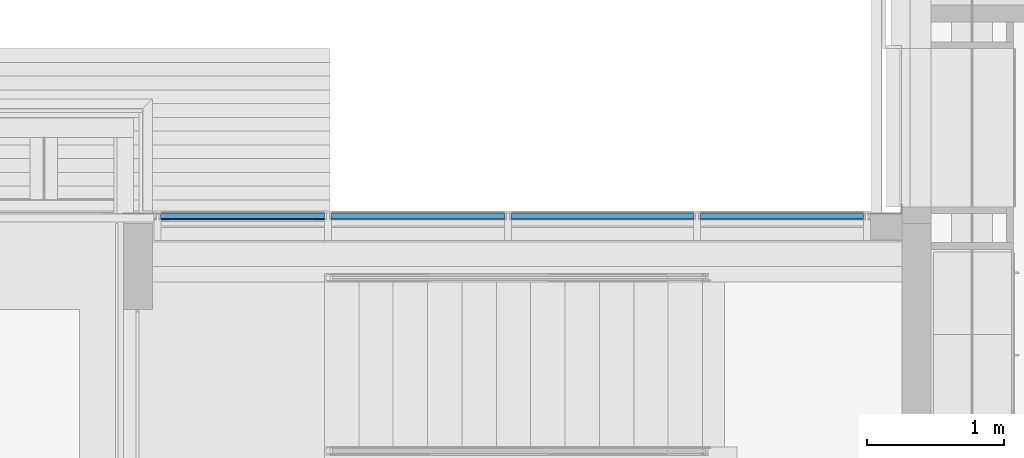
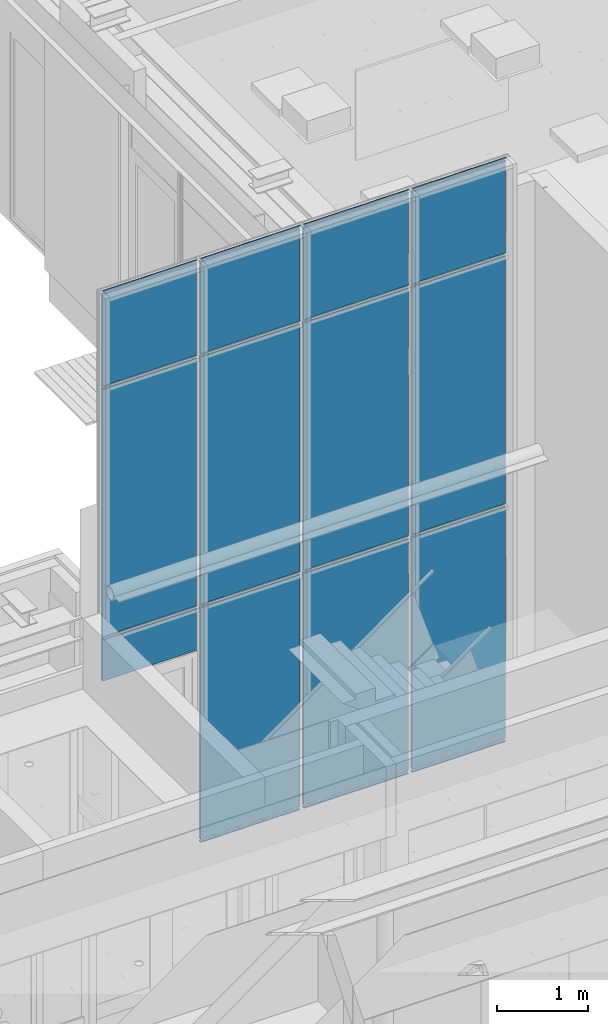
# One storey, part 103 of 347: 10 building element parts, 1 opening, 1 element without a shape of its own.
"""IFC2X3 building model written with IfcOpenShell, lengths in millimetres."""

from ifc_helpers import new_model, entity, si_unit, converted_unit, derived_unit, money_unit, direction, frame, origin_with_axes, place, context, subcontext, project, spatial, faceted_brep, material, type_object, element, aggregate, save


model = new_model("IFC2X3")

# Units and contexts
model_context = context("Model", 3, precision=0.01, world=origin_with_axes(), true_north=direction((0.0, 1.0)))
plan_context = context("Plan", 3, precision=0.01, world=origin_with_axes(), true_north=direction((0.0, 1.0)))
body_context = subcontext(model_context, "Body", "Model", "MODEL_VIEW")
ifc_project = project(units=[si_unit("LENGTHUNIT", "METRE", prefix="MILLI"), si_unit("AREAUNIT", "SQUARE_METRE"), si_unit("VOLUMEUNIT", "CUBIC_METRE"), converted_unit("PLANEANGLEUNIT", "DEGREE", entity("IfcPlaneAngleMeasure", 0.0174532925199), si_unit("PLANEANGLEUNIT", "RADIAN"), dimensions=[0, 0, 0, 0, 0, 0, 0]), money_unit("EUR"), converted_unit("TIMEUNIT", "Year", entity("IfcTimeMeasure", 31556926.0), si_unit("TIMEUNIT", "SECOND"), dimensions=[0, 0, 1, 0, 0, 0, 0]), si_unit("MASSUNIT", "GRAM", prefix="KILO"), si_unit("THERMODYNAMICTEMPERATUREUNIT", "DEGREE_CELSIUS"), si_unit("LUMINOUSINTENSITYUNIT", "LUMEN"), si_unit("ENERGYUNIT", "JOULE", prefix="MEGA"), derived_unit("THERMALCONDUCTANCEUNIT", [(si_unit("POWERUNIT", "WATT"), 1), (si_unit("LENGTHUNIT", "METRE"), -1), (si_unit("THERMODYNAMICTEMPERATUREUNIT", "KELVIN"), -1)]), derived_unit("SPECIFICHEATCAPACITYUNIT", [(si_unit("ENERGYUNIT", "JOULE"), 1), (si_unit("MASSUNIT", "GRAM", prefix="KILO"), -1), (si_unit("THERMODYNAMICTEMPERATUREUNIT", "KELVIN"), -1)]), derived_unit("MASSDENSITYUNIT", [(si_unit("MASSUNIT", "GRAM", prefix="KILO"), 1), (si_unit("VOLUMEUNIT", "CUBIC_METRE"), -1)])], contexts=[model_context, plan_context])

# Site, building, storey
site_placement = place(None, origin_with_axes())
site = spatial("IfcSite", under=ifc_project, at=site_placement, Name="Site", CompositionType="ELEMENT")
building_placement = place(site_placement, origin_with_axes())
building = spatial("IfcBuilding", under=site, at=building_placement, Name="Naam gebouw", CompositionType="ELEMENT")
storey_placement = place(building_placement, origin_with_axes())
storey = spatial("IfcBuildingStorey", under=building, at=storey_placement, Name="begane grond", CompositionType="ELEMENT", Elevation=0.0)

# Proxy, opening, building element parts
building_element_proxy_type = type_object("IfcBuildingElementProxyType", Name="31 vliesgevel drsn 212 x 8350", PredefinedType="NOTDEFINED")
proxy_placement = place(storey_placement, frame((18665.0, 18595.0, 0.0), z_axis=(0.0, 0.0, 1.0), x_axis=(1.0, 0.0, 0.0)))
proxy = element("IfcBuildingElementProxy", 1, at=proxy_placement, inside=storey, type_object=building_element_proxy_type, Name="42_53 wandtegels keramisch")
opening_placement = place(proxy_placement, frame((600.000000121, 0.0, -40.0), z_axis=(0.0, 0.0, 1.0), x_axis=(1.0, 0.0, 0.0)))
element("IfcOpeningElement", 2, at=opening_placement, cuts=proxy, Name="32_merk-C1", context=body_context, shape_type="Brep", body=[
    faceted_brep([(-601.999999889, 1541.00000358, 2640.0), (-601.999999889, 1541.00000358, 0.0), (-601.999999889, -1965.00001073, 0.0), (-601.999999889, -1965.00001073, 2640.0), (601.999999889, 1541.00000358, 2640.0), (601.999999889, 1541.00000358, 0.0), (601.999999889, -1965.00001073, 0.0), (601.999999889, -1965.00001073, 2640.0)], [[[0, 1, 2, 3]], [[0, 4, 5, 1]], [[1, 5, 6, 2]], [[3, 2, 6, 7]], [[4, 0, 3, 7]], [[5, 4, 7, 6]]]),
])
ifc_material_1 = material(Name="Membraan - rubber")
building_element_part_1_placement = place(proxy_placement, origin_with_axes())
building_element_part_1 = element("IfcBuildingElementPart", 3, at=building_element_part_1_placement, material=ifc_material_1, Name="Membraan - rubber", context=body_context, shape_type="Brep", body=[
    faceted_brep([(3933.00000023, 9.44361033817e-07, 2.00000004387), (3933.00000023, 9.44361033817e-07, 15.000000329), (5119.99999993, 7.01170677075e-07, 15.000000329), (5119.99999993, 7.01170677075e-07, 2.00000004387), (3933.00000023, -34.9999992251, 15.000000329), (3933.00000023, -34.9999992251, 2.00000004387), (5119.99999993, -35.0000000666, 15.000000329), (5119.99999993, -35.0000000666, 2.00000004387)], [[[0, 1, 2, 3]], [[4, 1, 0, 5]], [[1, 4, 6, 2]], [[3, 2, 6, 7]], [[5, 0, 3, 7]], [[4, 5, 7, 6]]]),
    faceted_brep([(2558.00000023, 2.20115481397e-07, 2.00000004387), (2558.00000023, 2.20115481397e-07, 15.000000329), (3887.00000001, 9.44361033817e-07, 15.000000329), (3887.00000001, 9.44361033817e-07, 2.00000004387), (2558.00000023, -34.9999999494, 15.000000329), (2558.00000023, -34.9999999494, 2.00000004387), (3887.00000001, -34.9999992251, 15.000000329), (3887.00000001, -34.9999992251, 2.00000004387)], [[[0, 1, 2, 3]], [[4, 1, 0, 5]], [[1, 4, 6, 2]], [[3, 2, 6, 7]], [[5, 0, 3, 7]], [[4, 5, 7, 6]]]),
    faceted_brep([(1248.00000023, 9.44361033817e-07, 2.00000004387), (1248.00000023, 9.44361033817e-07, 15.000000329), (2512.00000001, 2.20115481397e-07, 15.000000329), (2512.00000001, 2.20115481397e-07, 2.00000004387), (1248.00000023, -34.9999992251, 15.000000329), (1248.00000023, -34.9999992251, 2.00000004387), (2512.00000001, -34.9999999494, 15.000000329), (2512.00000001, -34.9999999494, 2.00000004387)], [[[0, 1, 2, 3]], [[4, 1, 0, 5]], [[1, 4, 6, 2]], [[3, 2, 6, 7]], [[5, 0, 3, 7]], [[4, 5, 7, 6]]]),
])
ifc_material_2 = material(Name="Glas")
building_element_part_2_placement = place(proxy_placement, origin_with_axes())
building_element_part_2 = element("IfcBuildingElementPart", 4, at=building_element_part_2_placement, material=ifc_material_2, Name="Glas", context=body_context, shape_type="Brep", body=[
    faceted_brep([(1202.00000001, -34.9999992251, 2600.0), (1202.00000001, 9.44361033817e-07, 2600.0), (1202.00000001, 9.44361033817e-07, 3150.00000009), (1202.00000001, 9.44361033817e-07, 3152.00000635), (1202.00000001, -34.9999992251, 3152.00000635), (1202.00000001, -34.9999992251, 3150.00000009), (12.0000000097, 3.31187521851e-07, 2600.0), (8.00000023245, -34.9999992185, 2600.0), (8.00000023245, -2.00000076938, 2600.0), (12.0000000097, -2.00000076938, 2600.0), (12.0000000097, 3.31187521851e-07, 3150.00000009), (12.0000000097, 3.31187521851e-07, 3152.00000635), (12.0000000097, -2.00000076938, 3152.00000635), (8.00000023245, -2.00000076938, 3152.00000635), (8.00000023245, -34.9999992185, 3152.00000635), (8.00000023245, -34.9999992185, 3150.00000009)], [[[0, 1, 2, 3, 4, 5]], [[6, 1, 0, 7, 8, 9]], [[1, 6, 10, 2]], [[2, 10, 11, 3]], [[3, 11, 12, 13, 14, 4]], [[15, 5, 4, 14]], [[7, 0, 5, 15]], [[8, 7, 15, 14, 13]], [[9, 8, 13, 12]], [[6, 9, 12, 11, 10]]]),
    faceted_brep([(3933.00000023, 9.44361033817e-07, 3150.00000009), (3933.00000023, 9.44361033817e-07, 3152.00000635), (5119.99999993, -1.48443390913e-05, 3152.00000635), (5119.99999993, -1.48443390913e-05, 3150.00000009), (3933.00000023, -34.9999992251, 3152.00000635), (3933.00000023, 9.44361033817e-07, 50.0000012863), (3933.00000023, 9.44361033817e-07, 47.9999950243), (3933.00000023, -34.9999992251, 47.9999950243), (3933.00000023, -34.9999992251, 50.0000012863), (3933.00000023, -34.9999992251, 3150.00000009), (5119.99999993, -34.9999850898, 3152.00000635), (5119.99999993, -34.9999850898, 47.9999950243), (5119.99999993, -1.48443390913e-05, 47.9999950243), (5119.99999993, -1.48443390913e-05, 50.0000012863), (5119.99999993, -34.9999850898, 3150.00000009), (5119.99999993, -34.9999850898, 50.0000012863)], [[[0, 1, 2, 3]], [[4, 1, 0, 5, 6, 7, 8, 9]], [[1, 4, 10, 2]], [[11, 12, 13, 3, 2, 10, 14, 15]], [[5, 0, 3, 13]], [[6, 5, 13, 12]], [[7, 6, 12, 11]], [[8, 7, 11, 15]], [[9, 8, 15, 14]], [[4, 9, 14, 10]]]),
    faceted_brep([(2558.00000023, 2.20115481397e-07, 3150.00000009), (2558.00000023, 2.20115481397e-07, 3152.00000635), (3887.00000001, 9.44361033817e-07, 3152.00000635), (3887.00000001, 9.44361033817e-07, 3150.00000009), (2558.00000023, -34.9999999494, 3152.00000635), (2558.00000023, 2.20115481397e-07, 50.0000012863), (2558.00000023, 2.20115481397e-07, 47.9999950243), (2558.00000023, -34.9999999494, 47.9999950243), (2558.00000023, -34.9999999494, 50.0000012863), (2558.00000023, -34.9999999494, 3150.00000009), (3887.00000001, -34.9999992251, 3152.00000635), (3887.00000001, -34.9999992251, 3150.00000009), (3887.00000001, -34.9999992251, 50.0000012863), (3887.00000001, -34.9999992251, 47.9999950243), (3887.00000001, 9.44361033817e-07, 47.9999950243), (3887.00000001, 9.44361033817e-07, 50.0000012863)], [[[0, 1, 2, 3]], [[4, 1, 0, 5, 6, 7, 8, 9]], [[1, 4, 10, 2]], [[3, 2, 10, 11, 12, 13, 14, 15]], [[5, 0, 3, 15]], [[6, 5, 15, 14]], [[7, 6, 14, 13]], [[8, 7, 13, 12]], [[9, 8, 12, 11]], [[4, 9, 11, 10]]]),
    faceted_brep([(1248.00000023, 9.44361033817e-07, 3150.00000009), (1248.00000023, 9.44361033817e-07, 3152.00000635), (2512.00000001, 2.20115481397e-07, 3152.00000635), (2512.00000001, 2.20115481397e-07, 3150.00000009), (1248.00000023, -34.9999992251, 3152.00000635), (1248.00000023, 9.44361033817e-07, 50.0000012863), (1248.00000023, 9.44361033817e-07, 47.9999950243), (1248.00000023, -34.9999992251, 47.9999950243), (1248.00000023, -34.9999992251, 50.0000012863), (1248.00000023, -34.9999992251, 3150.00000009), (2512.00000001, -34.9999999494, 3152.00000635), (2512.00000001, -34.9999999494, 3150.00000009), (2512.00000001, -34.9999999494, 50.0000012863), (2512.00000001, -34.9999999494, 47.9999950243), (2512.00000001, 2.20115481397e-07, 47.9999950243), (2512.00000001, 2.20115481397e-07, 50.0000012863)], [[[0, 1, 2, 3]], [[4, 1, 0, 5, 6, 7, 8, 9]], [[1, 4, 10, 2]], [[3, 2, 10, 11, 12, 13, 14, 15]], [[5, 0, 3, 15]], [[6, 5, 15, 14]], [[7, 6, 14, 13]], [[8, 7, 13, 12]], [[9, 8, 12, 11]], [[4, 9, 11, 10]]]),
])
building_element_part_3_placement = place(proxy_placement, origin_with_axes())
building_element_part_3 = element("IfcBuildingElementPart", 5, at=building_element_part_3_placement, material=ifc_material_2, Name="Glas", context=body_context, shape_type="Brep", body=[
    faceted_brep([(8.00000023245, 9.51015266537e-07, 7789.99999977), (8.00000023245, 9.51015266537e-07, 7791.99999237), (1202.00000001, 9.44361033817e-07, 7791.99999237), (1202.00000001, 9.44361033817e-07, 7789.99999977), (8.00000023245, -34.9999992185, 7791.99999237), (8.00000023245, 9.51015266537e-07, 6560.00000033), (8.00000023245, 9.51015266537e-07, 6558.00000774), (8.00000023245, -34.9999992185, 6558.00000774), (8.00000023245, -34.9999992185, 6560.00000033), (8.00000023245, -34.9999992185, 7789.99999977), (1202.00000001, -34.9999992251, 7791.99999237), (1202.00000001, -34.9999992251, 7789.99999977), (1202.00000001, -34.9999992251, 6560.00000033), (1202.00000001, -34.9999992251, 6558.00000774), (1202.00000001, 9.44361033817e-07, 6558.00000774), (1202.00000001, 9.44361033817e-07, 6560.00000033)], [[[0, 1, 2, 3]], [[4, 1, 0, 5, 6, 7, 8, 9]], [[1, 4, 10, 2]], [[3, 2, 10, 11, 12, 13, 14, 15]], [[5, 0, 3, 15]], [[6, 5, 15, 14]], [[7, 6, 14, 13]], [[8, 7, 13, 12]], [[9, 8, 12, 11]], [[4, 9, 11, 10]]]),
    faceted_brep([(3933.00000023, 9.44361033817e-07, 7789.99999977), (3933.00000023, 9.44361033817e-07, 7791.99999237), (5119.99999993, -7.32605087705e-08, 7791.99999237), (5119.99999993, -7.32605087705e-08, 7789.99999977), (3933.00000023, -34.9999992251, 7791.99999237), (3933.00000023, 9.44361033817e-07, 6560.00000033), (3933.00000023, 9.44361033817e-07, 6558.00000774), (3933.00000023, -34.9999992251, 6558.00000774), (3933.00000023, -34.9999992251, 6560.00000033), (3933.00000023, -34.9999992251, 7789.99999977), (5119.99999993, -35.0000005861, 7791.99999237), (5119.99999993, -7.32605087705e-08, 6558.00000774), (5119.99999993, -7.32605087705e-08, 6560.00000033), (5119.99999993, -35.0000005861, 7789.99999977), (5119.99999993, -35.0000005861, 6560.00000033), (5119.99999993, -35.0000005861, 6558.00000774)], [[[0, 1, 2, 3]], [[4, 1, 0, 5, 6, 7, 8, 9]], [[1, 4, 10, 2]], [[11, 12, 3, 2, 10, 13, 14, 15]], [[5, 0, 3, 12]], [[6, 5, 12, 11]], [[7, 6, 11, 15]], [[8, 7, 15, 14]], [[9, 8, 14, 13]], [[4, 9, 13, 10]]]),
    faceted_brep([(2558.00000023, 2.20115481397e-07, 7789.99999977), (2558.00000023, 2.20115481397e-07, 7791.99999237), (3887.00000001, 9.44361033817e-07, 7791.99999237), (3887.00000001, 9.44361033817e-07, 7789.99999977), (2558.00000023, -34.9999999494, 7791.99999237), (2558.00000023, 2.20115481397e-07, 6560.00000033), (2558.00000023, 2.20115481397e-07, 6558.00000774), (2558.00000023, -34.9999999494, 6558.00000774), (2558.00000023, -34.9999999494, 6560.00000033), (2558.00000023, -34.9999999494, 7789.99999977), (3887.00000001, -34.9999992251, 7791.99999237), (3887.00000001, -34.9999992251, 7789.99999977), (3887.00000001, -34.9999992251, 6560.00000033), (3887.00000001, -34.9999992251, 6558.00000774), (3887.00000001, 9.44361033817e-07, 6558.00000774), (3887.00000001, 9.44361033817e-07, 6560.00000033)], [[[0, 1, 2, 3]], [[4, 1, 0, 5, 6, 7, 8, 9]], [[1, 4, 10, 2]], [[3, 2, 10, 11, 12, 13, 14, 15]], [[5, 0, 3, 15]], [[6, 5, 15, 14]], [[7, 6, 14, 13]], [[8, 7, 13, 12]], [[9, 8, 12, 11]], [[4, 9, 11, 10]]]),
    faceted_brep([(1248.00000023, 9.44361033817e-07, 7789.99999977), (1248.00000023, 9.44361033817e-07, 7791.99999237), (2512.00000001, 2.20115481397e-07, 7791.99999237), (2512.00000001, 2.20115481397e-07, 7789.99999977), (1248.00000023, -34.9999992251, 7791.99999237), (1248.00000023, 9.44361033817e-07, 6560.00000033), (1248.00000023, 9.44361033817e-07, 6558.00000774), (1248.00000023, -34.9999992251, 6558.00000774), (1248.00000023, -34.9999992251, 6560.00000033), (1248.00000023, -34.9999992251, 7789.99999977), (2512.00000001, -34.9999999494, 7791.99999237), (2512.00000001, -34.9999999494, 7789.99999977), (2512.00000001, -34.9999999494, 6560.00000033), (2512.00000001, -34.9999999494, 6558.00000774), (2512.00000001, 2.20115481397e-07, 6558.00000774), (2512.00000001, 2.20115481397e-07, 6560.00000033)], [[[0, 1, 2, 3]], [[4, 1, 0, 5, 6, 7, 8, 9]], [[1, 4, 10, 2]], [[3, 2, 10, 11, 12, 13, 14, 15]], [[5, 0, 3, 15]], [[6, 5, 15, 14]], [[7, 6, 14, 13]], [[8, 7, 13, 12]], [[9, 8, 12, 11]], [[4, 9, 11, 10]]]),
])
building_element_part_4_placement = place(proxy_placement, origin_with_axes())
building_element_part_4 = element("IfcBuildingElementPart", 6, at=building_element_part_4_placement, material=ifc_material_1, Name="Membraan - rubber", context=body_context, shape_type="Brep", body=[
    faceted_brep([(8.00000023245, 9.51015266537e-07, 6512.00000021), (8.00000023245, 9.51015266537e-07, 6524.99999944), (1202.00000001, 9.44361033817e-07, 6524.99999944), (1202.00000001, 9.44361033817e-07, 6512.00000021), (8.00000023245, -34.9999992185, 6524.99999944), (8.00000023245, -34.9999992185, 6512.00000021), (1202.00000001, -34.9999992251, 6524.99999944), (1202.00000001, -34.9999992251, 6512.00000021)], [[[0, 1, 2, 3]], [[4, 1, 0, 5]], [[1, 4, 6, 2]], [[3, 2, 6, 7]], [[5, 0, 3, 7]], [[4, 5, 7, 6]]]),
    faceted_brep([(3933.00000023, 9.44361033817e-07, 6512.00000021), (3933.00000023, 9.44361033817e-07, 6524.99999944), (5119.99999993, -5.14479125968e-07, 6524.99999944), (5119.99999993, -5.14479125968e-07, 6512.00000021), (3933.00000023, -34.9999992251, 6524.99999944), (3933.00000023, -34.9999992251, 6512.00000021), (5119.99999993, -35.000000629, 6524.99999944), (5119.99999993, -35.000000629, 6512.00000021)], [[[0, 1, 2, 3]], [[4, 1, 0, 5]], [[1, 4, 6, 2]], [[2, 6, 7, 3]], [[5, 0, 3, 7]], [[4, 5, 7, 6]]]),
    faceted_brep([(2558.00000023, 2.20115481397e-07, 6512.00000021), (2558.00000023, 2.20115481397e-07, 6524.99999944), (3887.00000001, 9.44361033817e-07, 6524.99999944), (3887.00000001, 9.44361033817e-07, 6512.00000021), (2558.00000023, -34.9999999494, 6524.99999944), (2558.00000023, -34.9999999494, 6512.00000021), (3887.00000001, -34.9999992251, 6524.99999944), (3887.00000001, -34.9999992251, 6512.00000021)], [[[0, 1, 2, 3]], [[4, 1, 0, 5]], [[1, 4, 6, 2]], [[3, 2, 6, 7]], [[5, 0, 3, 7]], [[4, 5, 7, 6]]]),
    faceted_brep([(1248.00000023, 9.44361033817e-07, 6512.00000021), (1248.00000023, 9.44361033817e-07, 6524.99999944), (2512.00000001, 2.20115481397e-07, 6524.99999944), (2512.00000001, 2.20115481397e-07, 6512.00000021), (1248.00000023, -34.9999992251, 6524.99999944), (1248.00000023, -34.9999992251, 6512.00000021), (2512.00000001, -34.9999999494, 6524.99999944), (2512.00000001, -34.9999999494, 6512.00000021)], [[[0, 1, 2, 3]], [[4, 1, 0, 5]], [[1, 4, 6, 2]], [[3, 2, 6, 7]], [[5, 0, 3, 7]], [[4, 5, 7, 6]]]),
])
building_element_part_5_placement = place(proxy_placement, origin_with_axes())
building_element_part_5 = element("IfcBuildingElementPart", 7, at=building_element_part_5_placement, material=ifc_material_1, Name="Membraan - rubber", context=body_context, shape_type="Brep", body=[
    faceted_brep([(8.00000023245, -2.00000076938, 3152.00000021), (8.00000023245, -2.00000076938, 3164.99999944), (12.0000000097, -2.00000076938, 3164.99999944), (12.0000000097, -2.00000076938, 3152.00000021), (8.00000023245, -34.9999992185, 3164.99999944), (8.00000023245, -34.9999992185, 3152.00000021), (1202.00000001, -34.9999992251, 3164.99999944), (1202.00000001, 9.44361033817e-07, 3164.99999944), (12.0000000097, 3.31187521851e-07, 3164.99999944), (12.0000000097, 3.31187521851e-07, 3152.00000021), (1202.00000001, 9.44361033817e-07, 3152.00000021), (1202.00000001, -34.9999992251, 3152.00000021)], [[[0, 1, 2, 3]], [[4, 1, 0, 5]], [[1, 4, 6, 7, 8, 2]], [[3, 2, 8, 9]], [[5, 0, 3, 9, 10, 11]], [[4, 5, 11, 6]], [[10, 7, 6, 11]], [[7, 10, 9, 8]]]),
    faceted_brep([(3933.00000023, 9.44361033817e-07, 3152.00000021), (3933.00000023, 9.44361033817e-07, 3164.99999944), (5119.99999993, -5.14482678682e-07, 3164.99999944), (5119.99999993, -5.14482678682e-07, 3152.00000021), (3933.00000023, -34.9999992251, 3164.99999944), (3933.00000023, -34.9999992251, 3152.00000021), (5119.99999993, -35.000000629, 3164.99999944), (5119.99999993, -35.000000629, 3152.00000021)], [[[0, 1, 2, 3]], [[4, 1, 0, 5]], [[1, 4, 6, 2]], [[3, 2, 6, 7]], [[5, 0, 3, 7]], [[4, 5, 7, 6]]]),
    faceted_brep([(2558.00000023, 2.20115481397e-07, 3152.00000021), (2558.00000023, 2.20115481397e-07, 3164.99999944), (3887.00000001, 9.44361033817e-07, 3164.99999944), (3887.00000001, 9.44361033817e-07, 3152.00000021), (2558.00000023, -34.9999999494, 3164.99999944), (2558.00000023, -34.9999999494, 3152.00000021), (3887.00000001, -34.9999992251, 3164.99999944), (3887.00000001, -34.9999992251, 3152.00000021)], [[[0, 1, 2, 3]], [[4, 1, 0, 5]], [[1, 4, 6, 2]], [[3, 2, 6, 7]], [[5, 0, 3, 7]], [[4, 5, 7, 6]]]),
    faceted_brep([(1248.00000023, 9.44361033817e-07, 3152.00000021), (1248.00000023, 9.44361033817e-07, 3164.99999944), (2512.00000001, 2.20115481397e-07, 3164.99999944), (2512.00000001, 2.20115481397e-07, 3152.00000021), (1248.00000023, -34.9999992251, 3164.99999944), (1248.00000023, -34.9999992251, 3152.00000021), (2512.00000001, -34.9999999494, 3164.99999944), (2512.00000001, -34.9999999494, 3152.00000021)], [[[0, 1, 2, 3]], [[4, 1, 0, 5]], [[1, 4, 6, 2]], [[3, 2, 6, 7]], [[5, 0, 3, 7]], [[4, 5, 7, 6]]]),
])
building_element_part_6_placement = place(proxy_placement, origin_with_axes())
building_element_part_6 = element("IfcBuildingElementPart", 8, at=building_element_part_6_placement, material=ifc_material_1, Name="Membraan - rubber", context=body_context, shape_type="Brep", body=[
    faceted_brep([(8.00000023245, -2.00000076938, 3185.00000011), (8.00000023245, -2.00000076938, 3197.99999935), (12.0000000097, -2.00000076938, 3197.99999935), (12.0000000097, -2.00000076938, 3185.00000011), (8.00000023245, -34.9999992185, 3197.99999935), (8.00000023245, -34.9999992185, 3185.00000011), (1202.00000001, -34.9999992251, 3197.99999935), (1202.00000001, 9.44361033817e-07, 3197.99999935), (12.0000000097, 3.31187521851e-07, 3197.99999935), (12.0000000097, 3.31187521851e-07, 3185.00000011), (1202.00000001, 9.44361033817e-07, 3185.00000011), (1202.00000001, -34.9999992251, 3185.00000011)], [[[0, 1, 2, 3]], [[4, 1, 0, 5]], [[1, 4, 6, 7, 8, 2]], [[3, 2, 8, 9]], [[5, 0, 3, 9, 10, 11]], [[4, 5, 11, 6]], [[10, 7, 6, 11]], [[7, 10, 9, 8]]]),
    faceted_brep([(3933.00000023, 9.44361033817e-07, 3185.00000011), (3933.00000023, 9.44361033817e-07, 3197.99999935), (5119.99999993, -5.14482678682e-07, 3197.99999935), (5119.99999993, -5.14482678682e-07, 3185.00000011), (3933.00000023, -34.9999992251, 3197.99999935), (3933.00000023, -34.9999992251, 3185.00000011), (5119.99999993, -35.000000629, 3197.99999935), (5119.99999993, -35.000000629, 3185.00000011)], [[[0, 1, 2, 3]], [[4, 1, 0, 5]], [[1, 4, 6, 2]], [[3, 2, 6, 7]], [[5, 0, 3, 7]], [[4, 5, 7, 6]]]),
    faceted_brep([(2558.00000023, 2.20115481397e-07, 3185.00000011), (2558.00000023, 2.20115481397e-07, 3197.99999935), (3887.00000001, 9.44361033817e-07, 3197.99999935), (3887.00000001, 9.44361033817e-07, 3185.00000011), (2558.00000023, -34.9999999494, 3197.99999935), (2558.00000023, -34.9999999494, 3185.00000011), (3887.00000001, -34.9999992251, 3197.99999935), (3887.00000001, -34.9999992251, 3185.00000011)], [[[0, 1, 2, 3]], [[4, 1, 0, 5]], [[1, 4, 6, 2]], [[3, 2, 6, 7]], [[5, 0, 3, 7]], [[4, 5, 7, 6]]]),
    faceted_brep([(1248.00000023, 9.44361033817e-07, 3185.00000011), (1248.00000023, 9.44361033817e-07, 3197.99999935), (2512.00000001, 2.20115481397e-07, 3197.99999935), (2512.00000001, 2.20115481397e-07, 3185.00000011), (1248.00000023, -34.9999992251, 3197.99999935), (1248.00000023, -34.9999992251, 3185.00000011), (2512.00000001, -34.9999999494, 3197.99999935), (2512.00000001, -34.9999999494, 3185.00000011)], [[[0, 1, 2, 3]], [[4, 1, 0, 5]], [[1, 4, 6, 2]], [[3, 2, 6, 7]], [[5, 0, 3, 7]], [[4, 5, 7, 6]]]),
])
building_element_part_7_placement = place(proxy_placement, origin_with_axes())
building_element_part_7 = element("IfcBuildingElementPart", 9, at=building_element_part_7_placement, material=ifc_material_1, Name="Membraan - rubber", context=body_context, shape_type="Brep", body=[
    faceted_brep([(8.00000023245, 9.51015266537e-07, 6545.00000011), (8.00000023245, 9.51015266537e-07, 6557.99999935), (1202.00000001, 9.44361033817e-07, 6557.99999935), (1202.00000001, 9.44361033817e-07, 6545.00000011), (8.00000023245, -34.9999992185, 6557.99999935), (8.00000023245, -34.9999992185, 6545.00000011), (1202.00000001, -34.9999992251, 6557.99999935), (1202.00000001, -34.9999992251, 6545.00000011)], [[[0, 1, 2, 3]], [[4, 1, 0, 5]], [[1, 4, 6, 2]], [[3, 2, 6, 7]], [[5, 0, 3, 7]], [[4, 5, 7, 6]]]),
    faceted_brep([(3933.00000023, 9.44361033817e-07, 6545.00000011), (3933.00000023, 9.44361033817e-07, 6557.99999935), (5119.99999993, -5.14479125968e-07, 6557.99999935), (5119.99999993, -5.14479125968e-07, 6545.00000011), (3933.00000023, -34.9999992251, 6557.99999935), (3933.00000023, -34.9999992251, 6545.00000011), (5119.99999993, -35.000000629, 6557.99999935), (5119.99999993, -35.000000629, 6545.00000011)], [[[0, 1, 2, 3]], [[4, 1, 0, 5]], [[1, 4, 6, 2]], [[2, 6, 7, 3]], [[5, 0, 3, 7]], [[4, 5, 7, 6]]]),
    faceted_brep([(2558.00000023, 2.20115481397e-07, 6545.00000011), (2558.00000023, 2.20115481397e-07, 6557.99999935), (3887.00000001, 9.44361033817e-07, 6557.99999935), (3887.00000001, 9.44361033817e-07, 6545.00000011), (2558.00000023, -34.9999999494, 6557.99999935), (2558.00000023, -34.9999999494, 6545.00000011), (3887.00000001, -34.9999992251, 6557.99999935), (3887.00000001, -34.9999992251, 6545.00000011)], [[[0, 1, 2, 3]], [[4, 1, 0, 5]], [[1, 4, 6, 2]], [[3, 2, 6, 7]], [[5, 0, 3, 7]], [[4, 5, 7, 6]]]),
    faceted_brep([(1248.00000023, 9.44361033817e-07, 6545.00000011), (1248.00000023, 9.44361033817e-07, 6557.99999935), (2512.00000001, 2.20115481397e-07, 6557.99999935), (2512.00000001, 2.20115481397e-07, 6545.00000011), (1248.00000023, -34.9999992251, 6557.99999935), (1248.00000023, -34.9999992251, 6545.00000011), (2512.00000001, -34.9999999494, 6557.99999935), (2512.00000001, -34.9999999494, 6545.00000011)], [[[0, 1, 2, 3]], [[4, 1, 0, 5]], [[1, 4, 6, 2]], [[3, 2, 6, 7]], [[5, 0, 3, 7]], [[4, 5, 7, 6]]]),
])
building_element_part_8_placement = place(proxy_placement, origin_with_axes())
building_element_part_8 = element("IfcBuildingElementPart", 10, at=building_element_part_8_placement, material=ifc_material_2, Name="Glas", context=body_context, shape_type="Brep", body=[
    faceted_brep([(8.00000023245, 9.51015266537e-07, 6510.00002402), (8.00000023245, 9.51015266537e-07, 6511.99997792), (1202.00000001, 9.44361033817e-07, 6511.99997792), (1202.00000001, 9.44361033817e-07, 6510.00002402), (8.00000023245, -34.9999992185, 6511.99997792), (8.00000023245, 9.51015266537e-07, 4980.0), (8.00000023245, -2.00000076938, 4980.0), (8.00000023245, -2.00000076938, 3198.00002269), (8.00000023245, -34.9999992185, 3198.00002269), (8.00000023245, -34.9999992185, 3199.99997659), (8.00000023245, -34.9999992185, 6510.00002402), (1202.00000001, -34.9999992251, 6511.99997792), (1202.00000001, -34.9999992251, 6510.00002402), (1202.00000001, -34.9999992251, 3199.99997659), (1202.00000001, -34.9999992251, 3198.00002269), (1202.00000001, 9.44361033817e-07, 3198.00002269), (1202.00000001, 9.44361033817e-07, 3199.99997659), (12.0000000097, 3.31187521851e-07, 3199.99997659), (12.0000000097, 3.31187521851e-07, 4980.0), (12.0000000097, -2.00000076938, 4980.0), (12.0000000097, -2.00000076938, 3198.00002269), (12.0000000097, 3.31187521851e-07, 3198.00002269)], [[[0, 1, 2, 3]], [[4, 1, 0, 5, 6, 7, 8, 9, 10]], [[1, 4, 11, 2]], [[3, 2, 11, 12, 13, 14, 15, 16]], [[5, 0, 3, 16, 17, 18]], [[6, 5, 18, 19]], [[7, 6, 19, 20]], [[8, 7, 20, 21, 15, 14]], [[9, 8, 14, 13]], [[10, 9, 13, 12]], [[4, 10, 12, 11]], [[16, 15, 21, 17]], [[19, 18, 17, 21, 20]]]),
    faceted_brep([(3933.00000023, 9.44361033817e-07, 6510.00002402), (3933.00000023, 9.44361033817e-07, 6511.99997792), (5119.99999993, -8.68382699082e-06, 6511.99997792), (5119.99999993, -8.68382699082e-06, 6510.00002402), (3933.00000023, -34.9999992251, 6511.99997792), (3933.00000023, 9.44361033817e-07, 3199.99997659), (3933.00000023, 9.44361033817e-07, 3198.00002269), (3933.00000023, -34.9999992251, 3198.00002269), (3933.00000023, -34.9999992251, 3199.99997659), (3933.00000023, -34.9999992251, 6510.00002402), (5119.99999993, -35.0000198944, 6511.99997792), (5119.99999993, -35.0000198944, 3198.00002269), (5119.99999993, -8.68382699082e-06, 3198.00002269), (5119.99999993, -8.68382699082e-06, 3199.99997659), (5119.99999993, -35.0000198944, 6510.00002402), (5119.99999993, -35.0000198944, 3199.99997659)], [[[0, 1, 2, 3]], [[4, 1, 0, 5, 6, 7, 8, 9]], [[1, 4, 10, 2]], [[11, 12, 13, 3, 2, 10, 14, 15]], [[5, 0, 3, 13]], [[6, 5, 13, 12]], [[7, 6, 12, 11]], [[8, 7, 11, 15]], [[9, 8, 15, 14]], [[4, 9, 14, 10]]]),
    faceted_brep([(2558.00000023, 2.20115481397e-07, 6510.00002402), (2558.00000023, 2.20115481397e-07, 6511.99997792), (3887.00000001, 9.44361033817e-07, 6511.99997792), (3887.00000001, 9.44361033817e-07, 6510.00002402), (2558.00000023, -34.9999999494, 6511.99997792), (2558.00000023, 2.20115481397e-07, 3199.99997659), (2558.00000023, 2.20115481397e-07, 3198.00002269), (2558.00000023, -34.9999999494, 3198.00002269), (2558.00000023, -34.9999999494, 3199.99997659), (2558.00000023, -34.9999999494, 6510.00002402), (3887.00000001, -34.9999992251, 6511.99997792), (3887.00000001, -34.9999992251, 6510.00002402), (3887.00000001, -34.9999992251, 3199.99997659), (3887.00000001, -34.9999992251, 3198.00002269), (3887.00000001, 9.44361033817e-07, 3198.00002269), (3887.00000001, 9.44361033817e-07, 3199.99997659)], [[[0, 1, 2, 3]], [[4, 1, 0, 5, 6, 7, 8, 9]], [[1, 4, 10, 2]], [[3, 2, 10, 11, 12, 13, 14, 15]], [[5, 0, 3, 15]], [[6, 5, 15, 14]], [[7, 6, 14, 13]], [[8, 7, 13, 12]], [[9, 8, 12, 11]], [[4, 9, 11, 10]]]),
    faceted_brep([(1248.00000023, 9.44361033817e-07, 6510.00002402), (1248.00000023, 9.44361033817e-07, 6511.99997792), (2512.00000001, 2.20115481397e-07, 6511.99997792), (2512.00000001, 2.20115481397e-07, 6510.00002402), (1248.00000023, -34.9999992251, 6511.99997792), (1248.00000023, 9.44361033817e-07, 3199.99997659), (1248.00000023, 9.44361033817e-07, 3198.00002269), (1248.00000023, -34.9999992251, 3198.00002269), (1248.00000023, -34.9999992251, 3199.99997659), (1248.00000023, -34.9999992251, 6510.00002402), (2512.00000001, -34.9999999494, 6511.99997792), (2512.00000001, -34.9999999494, 6510.00002402), (2512.00000001, -34.9999999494, 3199.99997659), (2512.00000001, -34.9999999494, 3198.00002269), (2512.00000001, 2.20115481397e-07, 3198.00002269), (2512.00000001, 2.20115481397e-07, 3199.99997659)], [[[0, 1, 2, 3]], [[4, 1, 0, 5, 6, 7, 8, 9]], [[1, 4, 10, 2]], [[3, 2, 10, 11, 12, 13, 14, 15]], [[5, 0, 3, 15]], [[6, 5, 15, 14]], [[7, 6, 14, 13]], [[8, 7, 13, 12]], [[9, 8, 12, 11]], [[4, 9, 11, 10]]]),
])
building_element_part_9_placement = place(proxy_placement, origin_with_axes())
building_element_part_9 = element("IfcBuildingElementPart", 11, at=building_element_part_9_placement, material=ifc_material_1, Name="Membraan - rubber", context=body_context, shape_type="Brep", body=[
    faceted_brep([(10.0000002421, -34.999998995, 7838.00000047), (10.0000002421, -34.999998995, 7840.0), (1200.0, -34.9999990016, 7840.0), (1200.0, -34.9999990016, 7838.00000047), (10.0000002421, -44.9999992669, 7840.0), (10.0000002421, -34.999998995, 7825.00000018), (10.0000002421, -44.9999992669, 7825.00000018), (1200.0, -44.9999992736, 7840.0), (1200.0, -44.9999992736, 7825.00000018), (1200.0, -34.9999990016, 7825.00000018)], [[[0, 1, 2, 3]], [[4, 1, 0, 5, 6]], [[1, 4, 7, 2]], [[3, 2, 7, 8, 9]], [[5, 0, 3, 9]], [[6, 5, 9, 8]], [[4, 6, 8, 7]]]),
    faceted_brep([(3935.00000024, -34.9999990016, 7838.00000047), (3935.00000024, -34.9999990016, 7840.0), (5119.99999993, -34.9999989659, 7840.00000025), (5119.99999993, -34.9999989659, 7838.00000047), (3935.00000024, -44.9999992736, 7840.0), (3935.00000024, -34.9999990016, 7825.00000018), (3935.00000024, -44.9999992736, 7825.00000018), (5119.99999993, -44.99999924, 7840.00000025), (5119.99999993, -44.99999924, 7825.00000018), (5119.99999993, -34.9999989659, 7825.00000018)], [[[0, 1, 2, 3]], [[4, 1, 0, 5, 6]], [[1, 4, 7, 2]], [[3, 2, 7, 8, 9]], [[5, 0, 3, 9]], [[6, 5, 9, 8]], [[4, 6, 8, 7]]]),
    faceted_brep([(2560.00000024, -34.9999997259, 7838.00000047), (2560.00000024, -34.9999997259, 7840.0), (3885.0, -34.9999990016, 7840.0), (3885.0, -34.9999990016, 7838.00000047), (2560.00000024, -44.9999999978, 7840.0), (2560.00000024, -34.9999997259, 7825.00000018), (2560.00000024, -44.9999999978, 7825.00000018), (3885.0, -44.9999992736, 7840.0), (3885.0, -44.9999992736, 7825.00000018), (3885.0, -34.9999990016, 7825.00000018)], [[[0, 1, 2, 3]], [[4, 1, 0, 5, 6]], [[1, 4, 7, 2]], [[3, 2, 7, 8, 9]], [[5, 0, 3, 9]], [[6, 5, 9, 8]], [[4, 6, 8, 7]]]),
    faceted_brep([(1250.00000024, -34.9999990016, 7838.00000047), (1250.00000024, -34.9999990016, 7840.0), (2510.0, -34.9999997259, 7840.0), (2510.0, -34.9999997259, 7838.00000047), (1250.00000024, -44.9999992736, 7840.0), (1250.00000024, -34.9999990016, 7825.00000018), (1250.00000024, -44.9999992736, 7825.00000018), (2510.0, -44.9999999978, 7840.0), (2510.0, -44.9999999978, 7825.00000018), (2510.0, -34.9999997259, 7825.00000018)], [[[0, 1, 2, 3]], [[4, 1, 0, 5, 6]], [[1, 4, 7, 2]], [[3, 2, 7, 8, 9]], [[5, 0, 3, 9]], [[6, 5, 9, 8]], [[4, 6, 8, 7]]]),
])
building_element_part_10_placement = place(proxy_placement, origin_with_axes())
building_element_part_10 = element("IfcBuildingElementPart", 12, at=building_element_part_10_placement, material=ifc_material_1, Name="Membraan - rubber", context=body_context, shape_type="Brep", body=[
    faceted_brep([(10.0000002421, -34.999998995, 7790.0), (10.0000002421, -34.999998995, 7805.00000008), (1200.0, -34.9999990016, 7805.00000008), (1200.0, -34.9999990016, 7790.0), (10.0000002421, -44.9999992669, 7805.00000008), (10.0000002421, -44.9999992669, 7790.0), (1200.0, -44.9999992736, 7805.00000008), (1200.0, -44.9999992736, 7790.0)], [[[0, 1, 2, 3]], [[4, 1, 0, 5]], [[1, 4, 6, 2]], [[3, 2, 6, 7]], [[5, 0, 3, 7]], [[4, 5, 7, 6]]]),
    faceted_brep([(3935.00000024, -34.9999990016, 7790.0), (3935.00000024, -34.9999990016, 7805.00000008), (5119.99999993, -34.9999989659, 7805.00000008), (5119.99999993, -34.9999989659, 7790.0), (3935.00000024, -44.9999992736, 7805.00000008), (3935.00000024, -44.9999992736, 7790.0), (5119.99999993, -44.99999924, 7805.00000008), (5119.99999993, -44.99999924, 7790.0)], [[[0, 1, 2, 3]], [[4, 1, 0, 5]], [[1, 4, 6, 2]], [[2, 6, 7, 3]], [[5, 0, 3, 7]], [[4, 5, 7, 6]]]),
    faceted_brep([(2560.00000024, -34.9999997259, 7790.0), (2560.00000024, -34.9999997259, 7805.00000008), (3885.0, -34.9999990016, 7805.00000008), (3885.0, -34.9999990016, 7790.0), (2560.00000024, -44.9999999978, 7805.00000008), (2560.00000024, -44.9999999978, 7790.0), (3885.0, -44.9999992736, 7805.00000008), (3885.0, -44.9999992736, 7790.0)], [[[0, 1, 2, 3]], [[4, 1, 0, 5]], [[1, 4, 6, 2]], [[3, 2, 6, 7]], [[5, 0, 3, 7]], [[4, 5, 7, 6]]]),
    faceted_brep([(1250.00000024, -34.9999990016, 7790.0), (1250.00000024, -34.9999990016, 7805.00000008), (2510.0, -34.9999997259, 7805.00000008), (2510.0, -34.9999997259, 7790.0), (1250.00000024, -44.9999992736, 7805.00000008), (1250.00000024, -44.9999992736, 7790.0), (2510.0, -44.9999999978, 7805.00000008), (2510.0, -44.9999999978, 7790.0)], [[[0, 1, 2, 3]], [[4, 1, 0, 5]], [[1, 4, 6, 2]], [[3, 2, 6, 7]], [[5, 0, 3, 7]], [[4, 5, 7, 6]]]),
])
aggregate(proxy, [building_element_part_1, building_element_part_2, building_element_part_3, building_element_part_4, building_element_part_5, building_element_part_6, building_element_part_7, building_element_part_8, building_element_part_9, building_element_part_10])

save(model, "model.ifc")
